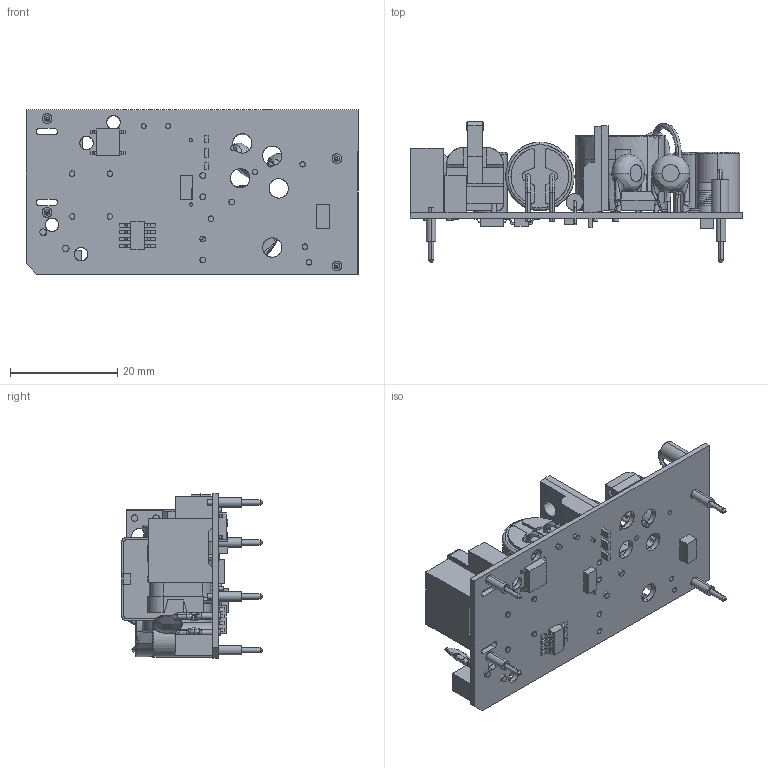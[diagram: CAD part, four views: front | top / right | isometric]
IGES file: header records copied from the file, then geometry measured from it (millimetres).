
Start section: SolidWorks IGES file using analytic representation for surfaces
Global section: file name: C:\Users\ksmith.XPNA\Desktop\EML15\EML15-P\EML15-P.IGS; native system: SolidWorks 2013; preprocessor: SolidWorks 2013; author: ksmith; date: 130904.140515; units: inch
Bounding box: 62 x 26.2 x 30.73 mm (x, y, z)
Surface area: 12755 mm2 (no closed solid volume)
Topology: 0 solids, 0 shells, 913 faces, 11036 edges, 11035 vertices
Faces by surface type: bspline 647, revolution 266
